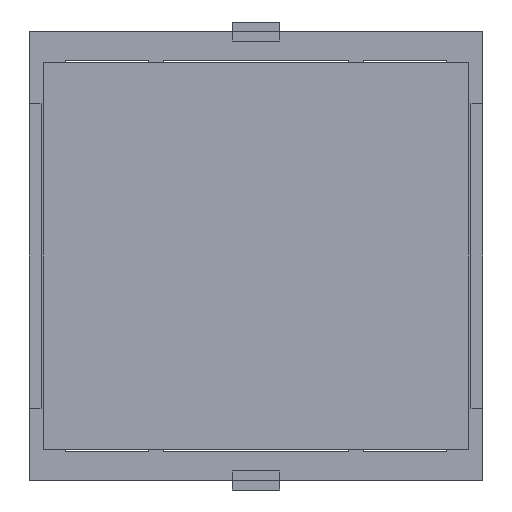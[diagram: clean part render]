
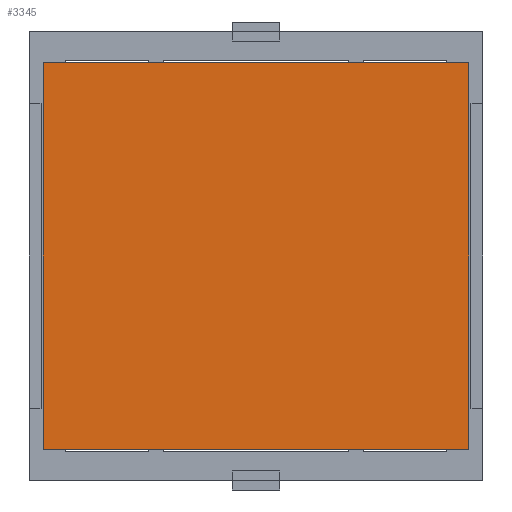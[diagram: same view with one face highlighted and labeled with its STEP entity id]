
A CAD part, front view. The second image highlights one B-rep face of the part: STEP entity #3345.
In plain terms, the highlighted planar face has unit normal (0, -1, 0).
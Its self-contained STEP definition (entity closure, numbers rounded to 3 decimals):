
#21 = DIRECTION ( 'NONE',  ( -1., 0., 0. ) ) ;
#243 = VECTOR ( 'NONE', #258, 1000. ) ;
#258 = DIRECTION ( 'NONE',  ( 0., 0., 1. ) ) ;
#425 = CARTESIAN_POINT ( 'NONE',  ( -1.731, -17.438, 21.199 ) ) ;
#656 = CARTESIAN_POINT ( 'NONE',  ( -1.731, -17.438, 21.199 ) ) ;
#729 = VERTEX_POINT ( 'NONE', #4020 ) ;
#831 = CARTESIAN_POINT ( 'NONE',  ( -1.731, -17.438, -19.441 ) ) ;
#1103 = EDGE_LOOP ( 'NONE', ( #5024, #5197, #2231, #5212 ) ) ;
#1136 = EDGE_CURVE ( 'NONE', #4911, #729, #5743, .T. ) ;
#1577 = PLANE ( 'NONE',  #4400 ) ;
#1759 = VECTOR ( 'NONE', #6956, 1000. ) ;
#1786 = LINE ( 'NONE', #5738, #1810 ) ;
#1810 = VECTOR ( 'NONE', #21, 1000. ) ;
#1814 = DIRECTION ( 'NONE',  ( 0., 1., 0. ) ) ;
#1847 = LINE ( 'NONE', #4396, #1759 ) ;
#2101 = EDGE_CURVE ( 'NONE', #729, #4677, #1847, .T. ) ;
#2177 = FACE_OUTER_BOUND ( 'NONE', #1103, .T. ) ;
#2231 = ORIENTED_EDGE ( 'NONE', *, *, #2101, .F. ) ;
#2422 = LINE ( 'NONE', #6039, #243 ) ;
#2549 = DIRECTION ( 'NONE',  ( 1., 0., 0. ) ) ;
#3345 = ADVANCED_FACE ( 'NONE', ( #2177 ), #1577, .F. ) ;
#3913 = VERTEX_POINT ( 'NONE', #831 ) ;
#4020 = CARTESIAN_POINT ( 'NONE',  ( 42.973, -17.438, 21.199 ) ) ;
#4396 = CARTESIAN_POINT ( 'NONE',  ( 42.973, -17.438, -19.441 ) ) ;
#4400 = AXIS2_PLACEMENT_3D ( 'NONE', #425, #1814, #7501 ) ;
#4677 = VERTEX_POINT ( 'NONE', #4682 ) ;
#4682 = CARTESIAN_POINT ( 'NONE',  ( 42.973, -17.438, -19.441 ) ) ;
#4911 = VERTEX_POINT ( 'NONE', #656 ) ;
#5008 = EDGE_CURVE ( 'NONE', #4677, #3913, #1786, .T. ) ;
#5024 = ORIENTED_EDGE ( 'NONE', *, *, #5443, .F. ) ;
#5197 = ORIENTED_EDGE ( 'NONE', *, *, #5008, .F. ) ;
#5212 = ORIENTED_EDGE ( 'NONE', *, *, #1136, .F. ) ;
#5443 = EDGE_CURVE ( 'NONE', #3913, #4911, #2422, .T. ) ;
#5738 = CARTESIAN_POINT ( 'NONE',  ( -1.731, -17.438, -19.441 ) ) ;
#5743 = LINE ( 'NONE', #8116, #6274 ) ;
#6039 = CARTESIAN_POINT ( 'NONE',  ( -1.731, -17.438, -19.441 ) ) ;
#6274 = VECTOR ( 'NONE', #2549, 1000. ) ;
#6956 = DIRECTION ( 'NONE',  ( 0., 0., -1. ) ) ;
#7501 = DIRECTION ( 'NONE',  ( 0., 0., 1. ) ) ;
#8116 = CARTESIAN_POINT ( 'NONE',  ( -1.731, -17.438, 21.199 ) ) ;
